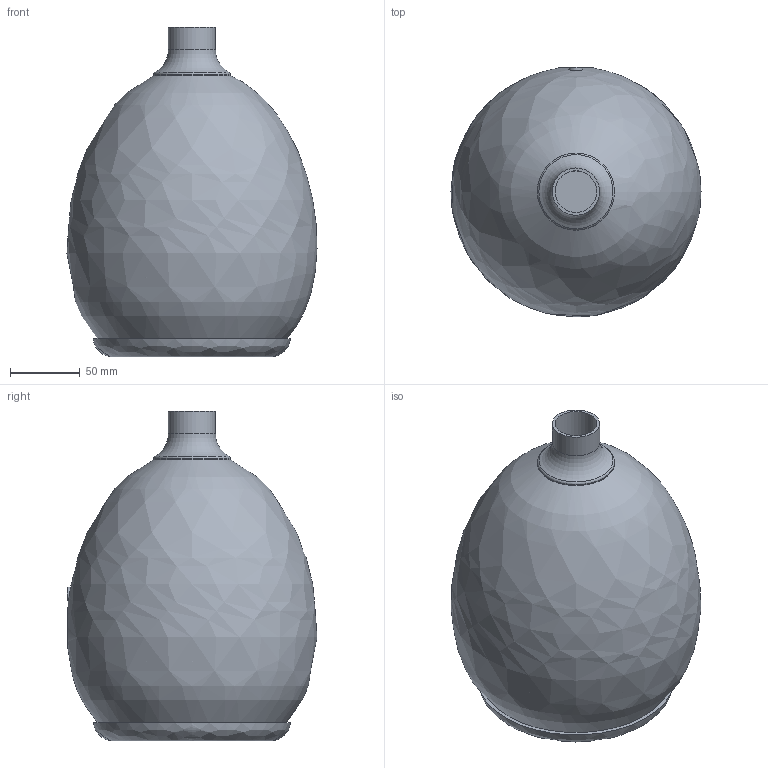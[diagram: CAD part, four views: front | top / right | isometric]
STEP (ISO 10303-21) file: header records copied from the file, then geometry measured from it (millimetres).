
FILE_DESCRIPTION(/* description */ ('Unknown'),/* implementation_level */ '2;1');
FILE_NAME(/* name */ 'Egget4',/* time_stamp */ '2025-02-26T18:03:19+01:00',/* author */ ('Unknown'),/* organization */ ('Unknown'),/* preprocessor_version */ 'ST-DEVELOPER v20',/* originating_system */ 'Solid Edge',/* authorisation */ 'Unknown');
FILE_SCHEMA (('AUTOMOTIVE_DESIGN {1 0 10303 214 3 1 1}'));
Length unit declared in the file: millimetre
Products named in the file (7): Egget; 4FE32; Front; Reflex; InternalVolume_Egget; Seal
Assembly tree (6 placements, depth 2):
  Egget
    Egget
    4FE32
    Front
    Reflex
    InternalVolume_Egget
    Seal
Bounding box: 179.89 x 179.71 x 237.4 mm (x, y, z)
Volume: 2571638 mm3; surface area: 559139.8 mm2
Topology: 6 solids, 7 shells, 267 faces, 697 edges, 461 vertices
Faces by surface type: plane 99, cylinder 93, cone 42, bspline 16, torus 15, sphere 2
Full cylindrical faces by diameter (mm): 5.5 x4, 6 x4, 10 x9, 11 x1, 30 x1, 34 x3, 45.9 x1, 48.9 x1, 49.8 x1, 49.9 x2, 50 x1, 52.9 x2, 53 x1, 55.484 x1, 85.72 x1, 88 x1, 89.72 x1, 90 x1, 92 x2
Entity records: 13200 total; most frequent: CARTESIAN_POINT 6980, DIRECTION 1246, ORIENTED_EDGE 1152, EDGE_CURVE 576, AXIS2_PLACEMENT_3D 546, VERTEX_POINT 429, EDGE_LOOP 411, FACE_BOUND 411
